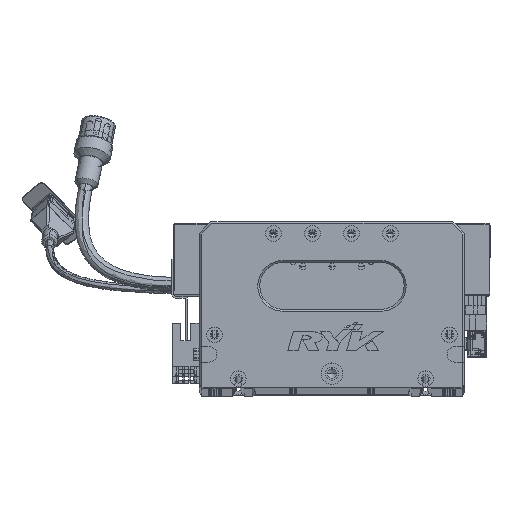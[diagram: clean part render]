
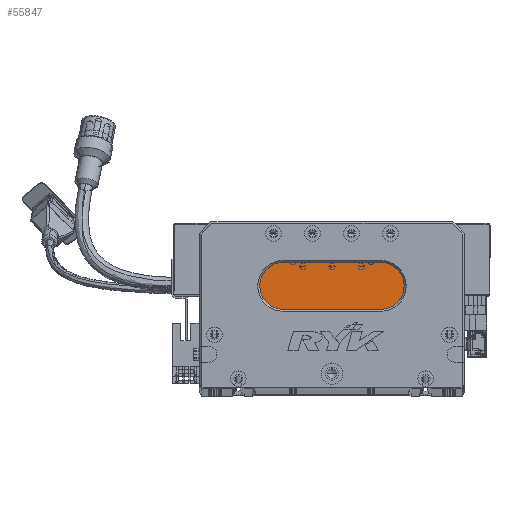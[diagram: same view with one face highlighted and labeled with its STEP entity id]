
A CAD part, top view. The second image highlights one B-rep face of the part: STEP entity #55847.
In plain terms, the highlighted planar face has unit normal (0, 0, 1) as drawn and (0, 0, -1) by its records, which use the part's own axes.
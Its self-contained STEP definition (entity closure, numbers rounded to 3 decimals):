
#1237 = VECTOR ( 'NONE', #63302, 1000. ) ;
#1893 = ORIENTED_EDGE ( 'NONE', *, *, #11470, .T. ) ;
#11470 = EDGE_CURVE ( 'NONE', #74210, #39243, #101187, .T. ) ;
#12264 = DIRECTION ( 'NONE',  ( 0., 0., -1. ) ) ;
#12387 = CIRCLE ( 'NONE', #21735, 12. ) ;
#14452 = AXIS2_PLACEMENT_3D ( 'NONE', #64769, #36131, #36955 ) ;
#18296 = CARTESIAN_POINT ( 'NONE',  ( 31., 52., 13. ) ) ;
#19792 = DIRECTION ( 'NONE',  ( -1., 0., 0. ) ) ;
#21110 = DIRECTION ( 'NONE',  ( -1., 0., 0. ) ) ;
#21735 = AXIS2_PLACEMENT_3D ( 'NONE', #50576, #29948, #98928 ) ;
#21806 = EDGE_CURVE ( 'NONE', #69914, #74210, #31219, .T. ) ;
#26415 = VERTEX_POINT ( 'NONE', #38963 ) ;
#26949 = ORIENTED_EDGE ( 'NONE', *, *, #82813, .T. ) ;
#29948 = DIRECTION ( 'NONE',  ( 0., 0., -1. ) ) ;
#31219 = LINE ( 'NONE', #32598, #1237 ) ;
#32598 = CARTESIAN_POINT ( 'NONE',  ( 93., 40., 13. ) ) ;
#35441 = CARTESIAN_POINT ( 'NONE',  ( 93., 64., 13. ) ) ;
#36131 = DIRECTION ( 'NONE',  ( 0., 0., -1. ) ) ;
#36955 = DIRECTION ( 'NONE',  ( -1., 0., 0. ) ) ;
#38963 = CARTESIAN_POINT ( 'NONE',  ( 43., 64., 13. ) ) ;
#39243 = VERTEX_POINT ( 'NONE', #18296 ) ;
#44496 = AXIS2_PLACEMENT_3D ( 'NONE', #71499, #60110, #19792 ) ;
#46318 = ORIENTED_EDGE ( 'NONE', *, *, #21806, .T. ) ;
#49320 = VECTOR ( 'NONE', #56440, 1000. ) ;
#50576 = CARTESIAN_POINT ( 'NONE',  ( 93., 52., 13. ) ) ;
#50758 = AXIS2_PLACEMENT_3D ( 'NONE', #116576, #12264, #21110 ) ;
#55405 = EDGE_LOOP ( 'NONE', ( #105601, #46318, #1893, #26949, #56315 ) ) ;
#55847 = ADVANCED_FACE ( 'NONE', ( #92342 ), #112708, .T. ) ;
#56315 = ORIENTED_EDGE ( 'NONE', *, *, #123560, .T. ) ;
#56440 = DIRECTION ( 'NONE',  ( 1., 0., 0. ) ) ;
#60110 = DIRECTION ( 'NONE',  ( 0., 0., -1. ) ) ;
#62743 = CARTESIAN_POINT ( 'NONE',  ( 93., 40., 13. ) ) ;
#63302 = DIRECTION ( 'NONE',  ( -1., 0., 0. ) ) ;
#64769 = CARTESIAN_POINT ( 'NONE',  ( 93., 52., 13. ) ) ;
#66796 = CARTESIAN_POINT ( 'NONE',  ( 93., 64., 13. ) ) ;
#69914 = VERTEX_POINT ( 'NONE', #62743 ) ;
#71499 = CARTESIAN_POINT ( 'NONE',  ( 43., 52., 13. ) ) ;
#74210 = VERTEX_POINT ( 'NONE', #110163 ) ;
#82696 = CIRCLE ( 'NONE', #44496, 12. ) ;
#82813 = EDGE_CURVE ( 'NONE', #39243, #26415, #82696, .T. ) ;
#92342 = FACE_OUTER_BOUND ( 'NONE', #55405, .T. ) ;
#98928 = DIRECTION ( 'NONE',  ( -1., 0., 0. ) ) ;
#101187 = CIRCLE ( 'NONE', #50758, 12. ) ;
#101525 = VERTEX_POINT ( 'NONE', #66796 ) ;
#105601 = ORIENTED_EDGE ( 'NONE', *, *, #119152, .T. ) ;
#110163 = CARTESIAN_POINT ( 'NONE',  ( 43., 40., 13. ) ) ;
#112708 = PLANE ( 'NONE',  #14452 ) ;
#116576 = CARTESIAN_POINT ( 'NONE',  ( 43., 52., 13. ) ) ;
#119152 = EDGE_CURVE ( 'NONE', #101525, #69914, #12387, .T. ) ;
#121491 = LINE ( 'NONE', #35441, #49320 ) ;
#123560 = EDGE_CURVE ( 'NONE', #26415, #101525, #121491, .T. ) ;
